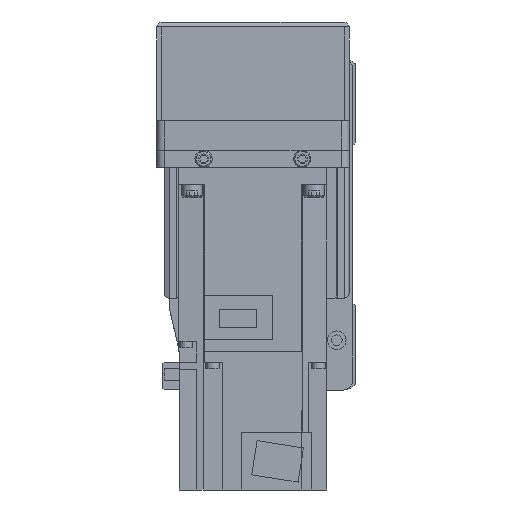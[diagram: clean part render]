
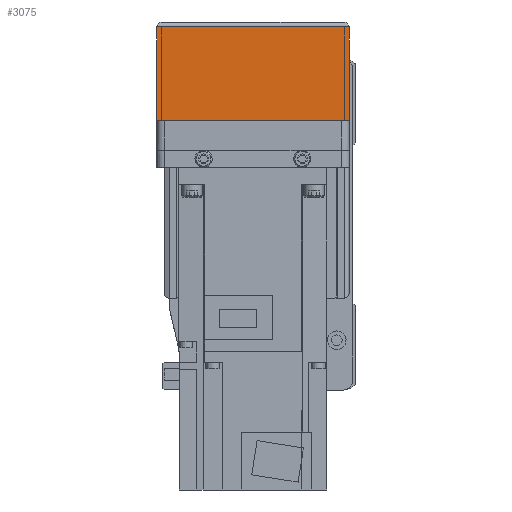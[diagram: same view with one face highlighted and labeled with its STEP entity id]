
A CAD part, left-side view. The second image highlights one B-rep face of the part: STEP entity #3075.
In plain terms, the highlighted planar face has unit normal (-1, 0, 0).
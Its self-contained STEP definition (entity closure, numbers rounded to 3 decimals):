
#3075 = ADVANCED_FACE( '', ( #6522 ), #6523, .F. );
#6522 = FACE_OUTER_BOUND( '', #10139, .T. );
#6523 = PLANE( '', #10140 );
#10139 = EDGE_LOOP( '', ( #18693, #18694, #18695, #18696 ) );
#10140 = AXIS2_PLACEMENT_3D( '', #18697, #18698, #18699 );
#18693 = ORIENTED_EDGE( '', *, *, #22160, .F. );
#18694 = ORIENTED_EDGE( '', *, *, #20718, .F. );
#18695 = ORIENTED_EDGE( '', *, *, #22818, .T. );
#18696 = ORIENTED_EDGE( '', *, *, #20470, .F. );
#18697 = CARTESIAN_POINT( '', ( -158., 36., 7. ) );
#18698 = DIRECTION( '', ( 1., 0., 0. ) );
#18699 = DIRECTION( '', ( 0., 0., -1. ) );
#20470 = EDGE_CURVE( '', #24377, #24379, #24380, .T. );
#20718 = EDGE_CURVE( '', #24809, #24811, #24812, .T. );
#22160 = EDGE_CURVE( '', #24811, #24377, #27166, .T. );
#22818 = EDGE_CURVE( '', #24809, #24379, #28093, .T. );
#24377 = VERTEX_POINT( '', #30223 );
#24379 = VERTEX_POINT( '', #30226 );
#24380 = LINE( '', #30227, #30228 );
#24809 = VERTEX_POINT( '', #30855 );
#24811 = VERTEX_POINT( '', #30858 );
#24812 = LINE( '', #30859, #30860 );
#27166 = LINE( '', #34576, #34577 );
#28093 = LINE( '', #36085, #36086 );
#30223 = CARTESIAN_POINT( '', ( -158., -39., -12.1 ) );
#30226 = CARTESIAN_POINT( '', ( -158., -39., -50. ) );
#30227 = CARTESIAN_POINT( '', ( -158., -39., -12.1 ) );
#30228 = VECTOR( '', #38167, 1000. );
#30855 = CARTESIAN_POINT( '', ( -158., 39., -50. ) );
#30858 = CARTESIAN_POINT( '', ( -158., 39., -12.1 ) );
#30859 = CARTESIAN_POINT( '', ( -158., 39., -50. ) );
#30860 = VECTOR( '', #38502, 1000. );
#34576 = CARTESIAN_POINT( '', ( -158., 50., -12.1 ) );
#34577 = VECTOR( '', #40364, 1000. );
#36085 = CARTESIAN_POINT( '', ( -158., 40., -50. ) );
#36086 = VECTOR( '', #41116, 1000. );
#38167 = DIRECTION( '', ( 0., 0., -1. ) );
#38502 = DIRECTION( '', ( 0., 0., 1. ) );
#40364 = DIRECTION( '', ( 0., -1., 0. ) );
#41116 = DIRECTION( '', ( 0., -1., 0. ) );
